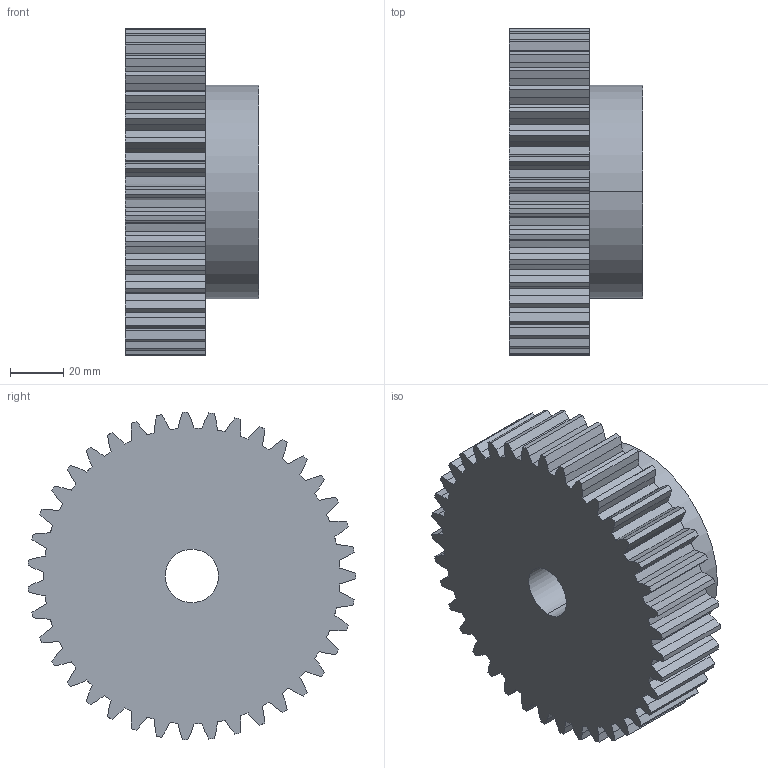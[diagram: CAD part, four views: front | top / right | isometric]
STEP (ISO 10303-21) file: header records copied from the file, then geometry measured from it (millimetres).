
FILE_DESCRIPTION (( 'STEP AP203' ), '1' );
FILE_NAME ('PM 30039.STEP', '2013-09-25T14:01:52', ( '' ), ( '' ), 'SwSTEP 2.0', 'SolidWorks 2010', '' );
FILE_SCHEMA (( 'CONFIG_CONTROL_DESIGN' ));
Length unit declared in the file: millimetre
Products named in the file (1): PM 30039
Bounding box: 50 x 122.87 x 122.96 mm (x, y, z)
Volume: 404135.1 mm3; surface area: 49614.2 mm2
Topology: 1 solids, 1 shells, 241 faces, 714 edges, 476 vertices
Faces by surface type: plane 159, cylinder 82
Entity records: 8289 total; most frequent: CARTESIAN_POINT 2110, ORIENTED_EDGE 1428, DIRECTION 1066, EDGE_CURVE 714, VERTEX_POINT 476, LINE 394, VECTOR 394, AXIS2_PLACEMENT_3D 336
